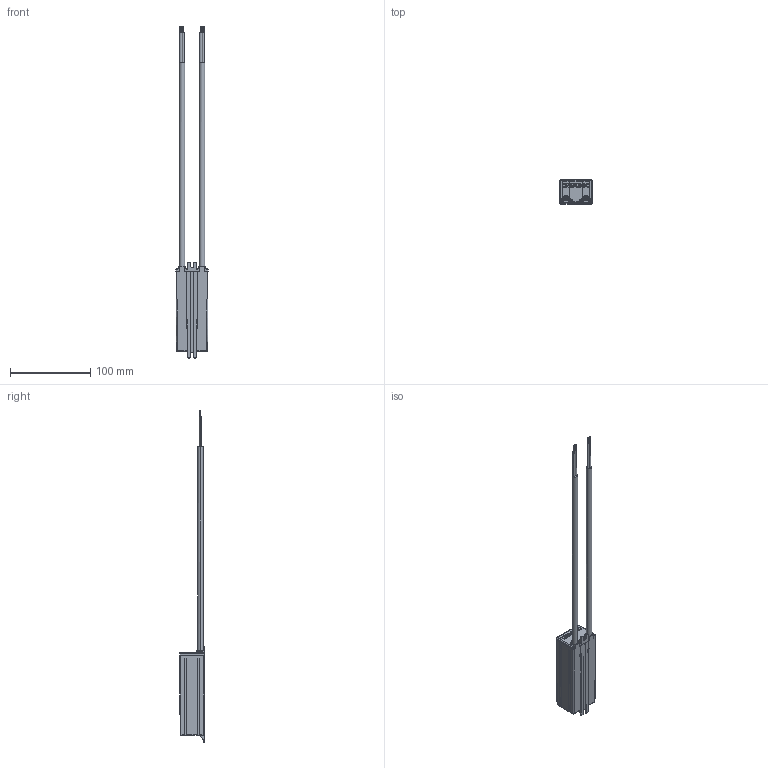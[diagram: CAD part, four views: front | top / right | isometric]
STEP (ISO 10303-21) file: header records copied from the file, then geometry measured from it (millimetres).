
FILE_DESCRIPTION((''),'2;1');
FILE_NAME('09550103','2012-12-17T',('emir.oezbadereli'),(''),'PRO/ENGINEER BY PARAMETRIC TECHNOLOGY CORPORATION, 2010480','PRO/ENGINEER BY PARAMETRIC TECHNOLOGY CORPORATION, 2010480','');
FILE_SCHEMA(('AUTOMOTIVE_DESIGN { 1 2 10303 214 0 1 1 1 }'));
Length unit declared in the file: millimetre
Products named in the file (1): 09550103
Bounding box: 40 x 31.04 x 415 mm (x, y, z)
Volume: 53581 mm3; surface area: 55558.9 mm2
Topology: 1 solids, 1 shells, 1027 faces, 2837 edges, 1769 vertices
Faces by surface type: plane 502, cylinder 382, torus 73, bspline 32, sphere 24, cone 14
Entity records: 47249 total; most frequent: CARTESIAN_POINT 9188, ORIENTED_EDGE 5626, DIRECTION 5458, PRESENTATION_STYLE_ASSIGNMENT 3239, STYLED_ITEM 2814, CURVE_STYLE 2813, EDGE_CURVE 2813, AXIS2_PLACEMENT_3D 1867
